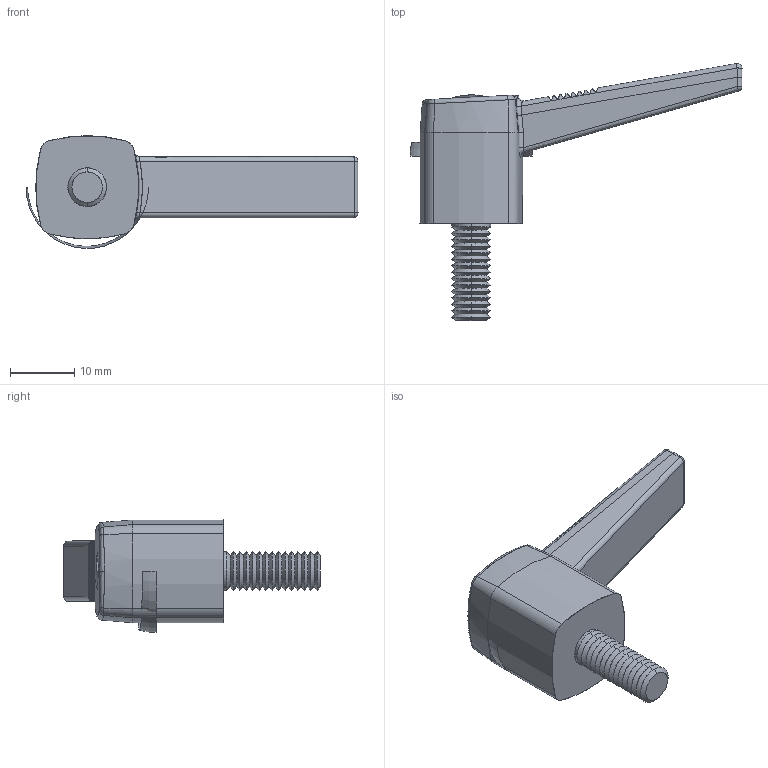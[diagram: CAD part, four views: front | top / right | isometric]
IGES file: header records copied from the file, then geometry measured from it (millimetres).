
Start section: SolidWorks IGES file using analytic representation for surfaces
Global section: file name: C:\Documents and Settings\IANO\Desktop\Temp File\Process pending\PCN pending\74970_v2\74970_v2_20161101_IGES\74970.W0041.igs; native system: SolidWorks 2009; preprocessor: SolidWorks 2009; author: IANO; date: 170306.084636; units: millimetre
Bounding box: 51.5 x 39.86 x 17.49 mm (x, y, z)
Surface area: 3325.3 mm2 (no closed solid volume)
Topology: 0 solids, 0 shells, 183 faces, 1334 edges, 1331 vertices
Faces by surface type: revolution 117, bspline 66
